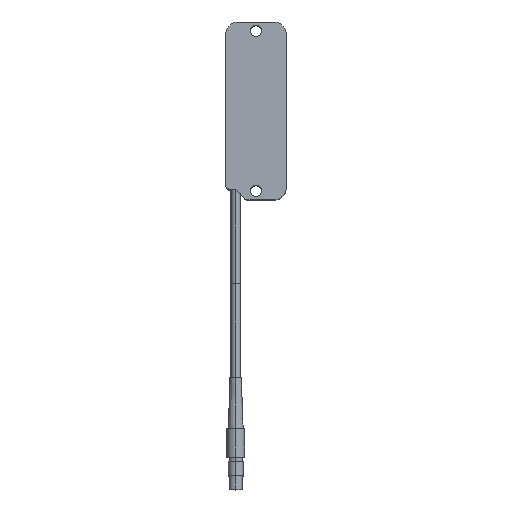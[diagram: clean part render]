
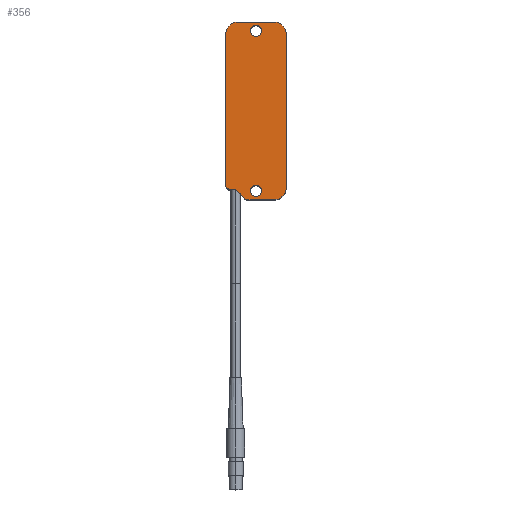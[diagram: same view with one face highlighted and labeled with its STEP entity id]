
A CAD part, top view. The second image highlights one B-rep face of the part: STEP entity #356.
In plain terms, the highlighted planar face has unit normal (0, 0, 1) as drawn and (0, 0, -1) by its records, which use the part's own axes.
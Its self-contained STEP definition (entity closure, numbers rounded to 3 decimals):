
#13 = EDGE_CURVE ( 'NONE', #636, #634, #2009, .T. ) ;
#278 = ORIENTED_EDGE ( 'NONE', *, *, #279, .T. ) ;
#279 = EDGE_CURVE ( 'NONE', #784, #858, #2413, .T. ) ;
#280 = ORIENTED_EDGE ( 'NONE', *, *, #783, .T. ) ;
#281 = EDGE_LOOP ( 'NONE', ( #282, #283, #343, #344, #345, #347, #348, #351, #354, #329, #332 ) ) ;
#282 = ORIENTED_EDGE ( 'NONE', *, *, #633, .T. ) ;
#283 = ORIENTED_EDGE ( 'NONE', *, *, #284, .T. ) ;
#284 = EDGE_CURVE ( 'NONE', #1011, #892, #2404, .T. ) ;
#328 = VERTEX_POINT ( 'NONE', #2452 ) ;
#329 = ORIENTED_EDGE ( 'NONE', *, *, #330, .T. ) ;
#330 = EDGE_CURVE ( 'NONE', #328, #331, #2516, .T. ) ;
#331 = VERTEX_POINT ( 'NONE', #2512 ) ;
#332 = ORIENTED_EDGE ( 'NONE', *, *, #333, .T. ) ;
#333 = EDGE_CURVE ( 'NONE', #331, #629, #2511, .T. ) ;
#343 = ORIENTED_EDGE ( 'NONE', *, *, #885, .T. ) ;
#344 = ORIENTED_EDGE ( 'NONE', *, *, #894, .T. ) ;
#345 = ORIENTED_EDGE ( 'NONE', *, *, #346, .T. ) ;
#346 = EDGE_CURVE ( 'NONE', #821, #636, #2489, .T. ) ;
#347 = ORIENTED_EDGE ( 'NONE', *, *, #13, .T. ) ;
#348 = ORIENTED_EDGE ( 'NONE', *, *, #349, .T. ) ;
#349 = EDGE_CURVE ( 'NONE', #634, #350, #2550, .T. ) ;
#350 = VERTEX_POINT ( 'NONE', #2546 ) ;
#351 = ORIENTED_EDGE ( 'NONE', *, *, #352, .T. ) ;
#352 = EDGE_CURVE ( 'NONE', #350, #353, #2545, .T. ) ;
#353 = VERTEX_POINT ( 'NONE', #2541 ) ;
#354 = ORIENTED_EDGE ( 'NONE', *, *, #355, .T. ) ;
#355 = EDGE_CURVE ( 'NONE', #353, #328, #2539, .T. ) ;
#356 = ADVANCED_FACE ( 'NONE', ( #2540, #2534, #2533 ), #2532, .T. ) ;
#357 = EDGE_LOOP ( 'NONE', ( #358, #360 ) ) ;
#358 = ORIENTED_EDGE ( 'NONE', *, *, #359, .T. ) ;
#359 = EDGE_CURVE ( 'NONE', #846, #779, #2527, .T. ) ;
#360 = ORIENTED_EDGE ( 'NONE', *, *, #834, .T. ) ;
#361 = EDGE_LOOP ( 'NONE', ( #278, #280 ) ) ;
#629 = VERTEX_POINT ( 'NONE', #2945 ) ;
#633 = EDGE_CURVE ( 'NONE', #629, #1011, #3012, .T. ) ;
#634 = VERTEX_POINT ( 'NONE', #3008 ) ;
#636 = VERTEX_POINT ( 'NONE', #3006 ) ;
#779 = VERTEX_POINT ( 'NONE', #3261 ) ;
#783 = EDGE_CURVE ( 'NONE', #858, #784, #3254, .T. ) ;
#784 = VERTEX_POINT ( 'NONE', #3249 ) ;
#821 = VERTEX_POINT ( 'NONE', #3300 ) ;
#834 = EDGE_CURVE ( 'NONE', #779, #846, #3339, .T. ) ;
#846 = VERTEX_POINT ( 'NONE', #3378 ) ;
#858 = VERTEX_POINT ( 'NONE', #3411 ) ;
#884 = VERTEX_POINT ( 'NONE', #3417 ) ;
#885 = EDGE_CURVE ( 'NONE', #892, #884, #3416, .T. ) ;
#892 = VERTEX_POINT ( 'NONE', #3469 ) ;
#894 = EDGE_CURVE ( 'NONE', #884, #821, #3468, .T. ) ;
#1011 = VERTEX_POINT ( 'NONE', #3640 ) ;
#2006 = DIRECTION ( 'NONE',  ( -1., 0., 0. ) ) ;
#2007 = VECTOR ( 'NONE', #2006, 1000. ) ;
#2008 = CARTESIAN_POINT ( 'NONE',  ( 12., -35., -8. ) ) ;
#2009 = LINE ( 'NONE', #2008, #2007 ) ;
#2400 = DIRECTION ( 'NONE',  ( -1., 0., 0. ) ) ;
#2401 = DIRECTION ( 'NONE',  ( 0., 0., -1. ) ) ;
#2402 = CARTESIAN_POINT ( 'NONE',  ( 10., -29., -8. ) ) ;
#2403 = AXIS2_PLACEMENT_3D ( 'NONE', #2402, #2401, #2400 ) ;
#2404 = CIRCLE ( 'NONE', #2403, 2. ) ;
#2405 = DIRECTION ( 'NONE',  ( 1., 0., 0. ) ) ;
#2406 = DIRECTION ( 'NONE',  ( 0., 0., 1. ) ) ;
#2407 = CARTESIAN_POINT ( 'NONE',  ( 0., -31.5, -8. ) ) ;
#2408 = AXIS2_PLACEMENT_3D ( 'NONE', #2407, #2406, #2405 ) ;
#2413 = CIRCLE ( 'NONE', #2408, 2.25 ) ;
#2452 = CARTESIAN_POINT ( 'NONE',  ( -7., 35., -8. ) ) ;
#2484 = CARTESIAN_POINT ( 'NONE',  ( -7., -30., -8. ) ) ;
#2485 = DIRECTION ( 'NONE',  ( -1., 0., 0. ) ) ;
#2486 = DIRECTION ( 'NONE',  ( 0., 0., -1. ) ) ;
#2487 = CARTESIAN_POINT ( 'NONE',  ( 3.172, -33., -8. ) ) ;
#2488 = AXIS2_PLACEMENT_3D ( 'NONE', #2487, #2486, #2485 ) ;
#2489 = CIRCLE ( 'NONE', #2488, 2. ) ;
#2507 = DIRECTION ( 'NONE',  ( -1., 0., 0. ) ) ;
#2508 = DIRECTION ( 'NONE',  ( 0., 0., -1. ) ) ;
#2509 = CARTESIAN_POINT ( 'NONE',  ( 7., 30., -8. ) ) ;
#2510 = AXIS2_PLACEMENT_3D ( 'NONE', #2509, #2508, #2507 ) ;
#2511 = CIRCLE ( 'NONE', #2510, 5. ) ;
#2512 = CARTESIAN_POINT ( 'NONE',  ( 7., 35., -8. ) ) ;
#2513 = DIRECTION ( 'NONE',  ( 1., 0., 0. ) ) ;
#2514 = VECTOR ( 'NONE', #2513, 1000. ) ;
#2515 = CARTESIAN_POINT ( 'NONE',  ( 12., 35., -8. ) ) ;
#2516 = LINE ( 'NONE', #2515, #2514 ) ;
#2523 = DIRECTION ( 'NONE',  ( 1., 0., 0. ) ) ;
#2524 = DIRECTION ( 'NONE',  ( 0., 0., 1. ) ) ;
#2525 = CARTESIAN_POINT ( 'NONE',  ( 0., 31.5, -8. ) ) ;
#2526 = AXIS2_PLACEMENT_3D ( 'NONE', #2525, #2524, #2523 ) ;
#2527 = CIRCLE ( 'NONE', #2526, 2.25 ) ;
#2528 = DIRECTION ( 'NONE',  ( -1., 0., 0. ) ) ;
#2529 = DIRECTION ( 'NONE',  ( 0., 0., -1. ) ) ;
#2530 = CARTESIAN_POINT ( 'NONE',  ( 12., -35., -8. ) ) ;
#2531 = AXIS2_PLACEMENT_3D ( 'NONE', #2530, #2529, #2528 ) ;
#2532 = PLANE ( 'NONE',  #2531 ) ;
#2533 = FACE_OUTER_BOUND ( 'NONE', #281, .T. ) ;
#2534 = FACE_BOUND ( 'NONE', #361, .T. ) ;
#2535 = DIRECTION ( 'NONE',  ( -1., 0., 0. ) ) ;
#2536 = DIRECTION ( 'NONE',  ( 0., 0., -1. ) ) ;
#2537 = CARTESIAN_POINT ( 'NONE',  ( -7., 30., -8. ) ) ;
#2538 = AXIS2_PLACEMENT_3D ( 'NONE', #2537, #2536, #2535 ) ;
#2539 = CIRCLE ( 'NONE', #2538, 5. ) ;
#2540 = FACE_BOUND ( 'NONE', #357, .T. ) ;
#2541 = CARTESIAN_POINT ( 'NONE',  ( -12., 30., -8. ) ) ;
#2542 = DIRECTION ( 'NONE',  ( 0., 1., 0. ) ) ;
#2543 = VECTOR ( 'NONE', #2542, 1000. ) ;
#2544 = CARTESIAN_POINT ( 'NONE',  ( -12., 35., -8. ) ) ;
#2545 = LINE ( 'NONE', #2544, #2543 ) ;
#2546 = CARTESIAN_POINT ( 'NONE',  ( -12., -30., -8. ) ) ;
#2547 = DIRECTION ( 'NONE',  ( -1., 0., 0. ) ) ;
#2548 = DIRECTION ( 'NONE',  ( 0., 0., -1. ) ) ;
#2549 = AXIS2_PLACEMENT_3D ( 'NONE', #2484, #2548, #2547 ) ;
#2550 = CIRCLE ( 'NONE', #2549, 5. ) ;
#2945 = CARTESIAN_POINT ( 'NONE',  ( 12., 30., -8. ) ) ;
#3006 = CARTESIAN_POINT ( 'NONE',  ( 3.172, -35., -8. ) ) ;
#3008 = CARTESIAN_POINT ( 'NONE',  ( -7., -35., -8. ) ) ;
#3009 = DIRECTION ( 'NONE',  ( 0., -1., 0. ) ) ;
#3010 = VECTOR ( 'NONE', #3009, 1000. ) ;
#3011 = CARTESIAN_POINT ( 'NONE',  ( 12., 35., -8. ) ) ;
#3012 = LINE ( 'NONE', #3011, #3010 ) ;
#3249 = CARTESIAN_POINT ( 'NONE',  ( 2.25, -31.5, -8. ) ) ;
#3250 = DIRECTION ( 'NONE',  ( 1., 0., 0. ) ) ;
#3251 = DIRECTION ( 'NONE',  ( 0., 0., 1. ) ) ;
#3252 = CARTESIAN_POINT ( 'NONE',  ( 0., -31.5, -8. ) ) ;
#3253 = AXIS2_PLACEMENT_3D ( 'NONE', #3252, #3251, #3250 ) ;
#3254 = CIRCLE ( 'NONE', #3253, 2.25 ) ;
#3261 = CARTESIAN_POINT ( 'NONE',  ( -2.25, 31.5, -8. ) ) ;
#3300 = CARTESIAN_POINT ( 'NONE',  ( 4.586, -34.414, -8. ) ) ;
#3335 = DIRECTION ( 'NONE',  ( 1., 0., 0. ) ) ;
#3336 = DIRECTION ( 'NONE',  ( 0., 0., 1. ) ) ;
#3337 = CARTESIAN_POINT ( 'NONE',  ( 0., 31.5, -8. ) ) ;
#3338 = AXIS2_PLACEMENT_3D ( 'NONE', #3337, #3336, #3335 ) ;
#3339 = CIRCLE ( 'NONE', #3338, 2.25 ) ;
#3378 = CARTESIAN_POINT ( 'NONE',  ( 2.25, 31.5, -8. ) ) ;
#3411 = CARTESIAN_POINT ( 'NONE',  ( -2.25, -31.5, -8. ) ) ;
#3416 = LINE ( 'NONE', #3477, #3476 ) ;
#3417 = CARTESIAN_POINT ( 'NONE',  ( 8., -31., -8. ) ) ;
#3465 = DIRECTION ( 'NONE',  ( -0.707, -0.707, 0. ) ) ;
#3466 = VECTOR ( 'NONE', #3465, 1000. ) ;
#3467 = CARTESIAN_POINT ( 'NONE',  ( 8., -31., -8. ) ) ;
#3468 = LINE ( 'NONE', #3467, #3466 ) ;
#3469 = CARTESIAN_POINT ( 'NONE',  ( 10., -31., -8. ) ) ;
#3475 = DIRECTION ( 'NONE',  ( -1., 0., 0. ) ) ;
#3476 = VECTOR ( 'NONE', #3475, 1000. ) ;
#3477 = CARTESIAN_POINT ( 'NONE',  ( 12., -31., -8. ) ) ;
#3640 = CARTESIAN_POINT ( 'NONE',  ( 12., -29., -8. ) ) ;
